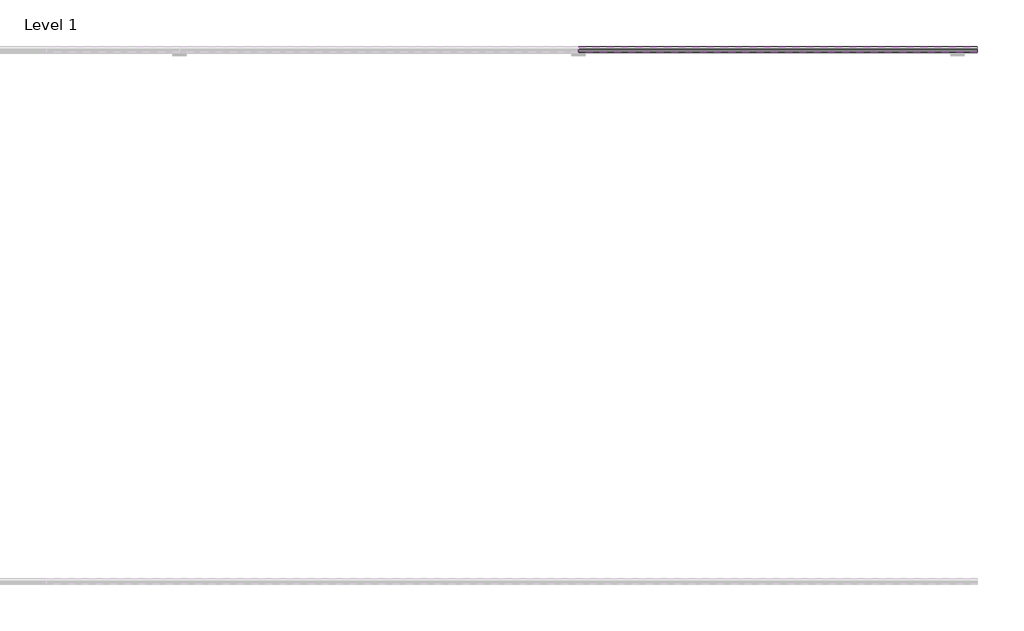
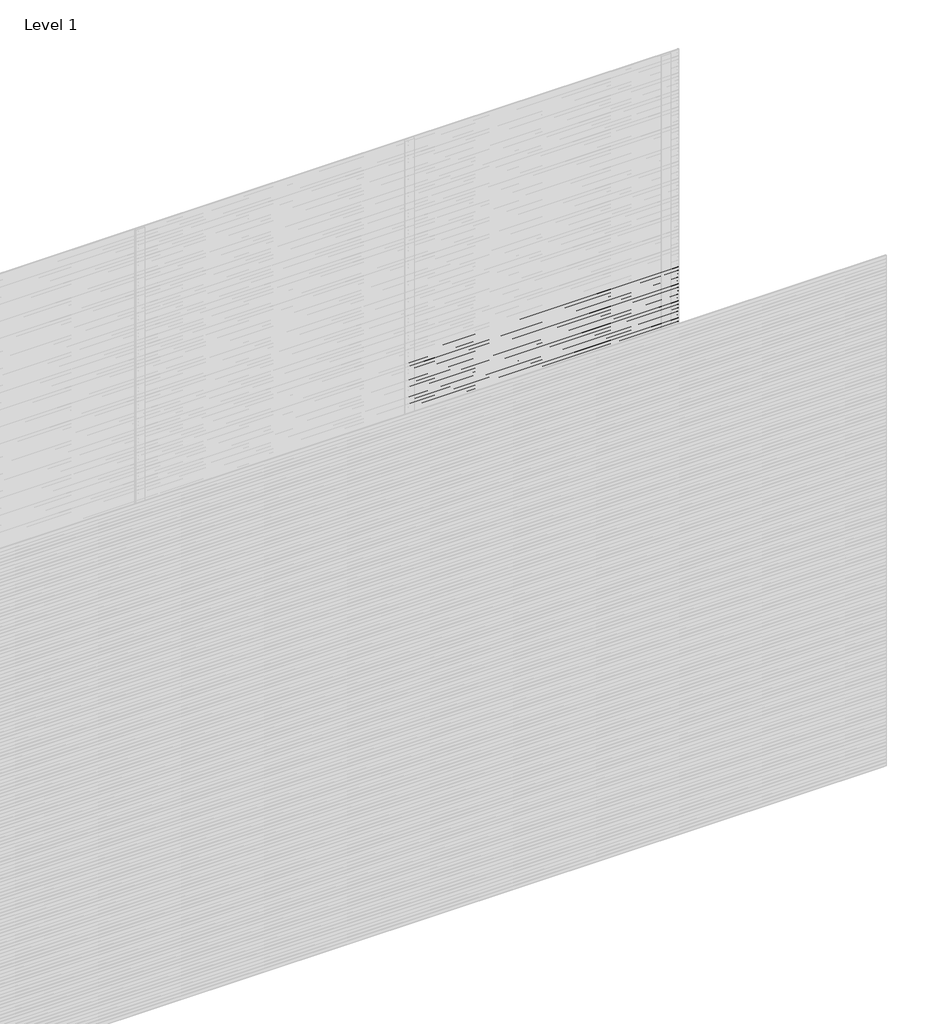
# One storey, part 31 of 31: 87 proxies.
"""IFC4 building model written with IfcOpenShell, lengths in millimetres."""

import ifcopenshell
import ifcopenshell.guid

model = None  # the IFC model being written
_history = None  # IfcOwnerHistory: only IFC2X3 demands one
_inside = {}  # id of a spatial element -> (the spatial element, [elements in it])
_under = {}  # id of a project, library or spatial element -> (it, [spatial elements below it])
_declared = {}  # id of a project -> (the project, [libraries it declares])
_typed = {}  # id of a type object -> (the type object, [elements of that type])
_made_of = {}  # id of a material, layer set ... -> (it, [elements and type objects made of it])


def new_model(schema):
    """Start an empty IFC model of exactly this schema.

    Asked for "IFC4X3", IfcOpenShell would pick the latest addendum, in which some entities
    have other attributes; the version numbers below select the first issue.
    IFC2X3 requires an IfcOwnerHistory on every rooted entity: one is made here for all.
    """
    global model, _history
    if schema == "IFC4X3":
        model = ifcopenshell.file(schema_version=(4, 3, 0, 0))
    else:
        model = ifcopenshell.file(schema=schema)
    _inside.clear()
    _under.clear()
    _declared.clear()
    _typed.clear()
    _made_of.clear()
    _history = None
    if model.schema == "IFC2X3":
        org = make("IfcOrganization", Name="unknown")
        user = make(
            "IfcPersonAndOrganization",
            ThePerson=make("IfcPerson", FamilyName="unknown"),
            TheOrganization=org,
        )
        app = make(
            "IfcApplication",
            ApplicationDeveloper=org,
            Version="unknown",
            ApplicationFullName="unknown",
            ApplicationIdentifier="unknown",
        )
        _history = make(
            "IfcOwnerHistory",
            OwningUser=user,
            OwningApplication=app,
            ChangeAction="ADDED",
            CreationDate=0,
        )
    return model


def make(cls, **values):
    """One entity of the class cls with the attributes given. An attribute that is None is left unset."""
    return model.create_entity(
        cls, **{name: value for name, value in values.items() if value is not None}
    )


def rooted(cls, **values):
    """An entity with a GlobalId (a new one), such as an element, a storey or a relation."""
    return make(cls, GlobalId=ifcopenshell.guid.new(), OwnerHistory=_history, **values)


def si_unit(unit_type, name, prefix=None):
    """IfcSIUnit, for example si_unit("LENGTHUNIT", "METRE", prefix="MILLI")."""
    return make("IfcSIUnit", UnitType=unit_type, Prefix=prefix, Name=name)


def assignment(units):
    """IfcUnitAssignment: the units of a project."""
    return None if units is None else make("IfcUnitAssignment", Units=units)


def point(xyz):
    """IfcCartesianPoint."""
    return None if xyz is None else make("IfcCartesianPoint", Coordinates=xyz)


def direction(xyz):
    """IfcDirection."""
    return None if xyz is None else make("IfcDirection", DirectionRatios=xyz)


def frame(location, z_axis=None, x_axis=None):
    """IfcAxis2Placement3D, a coordinate frame: its origin and axes. An axis left out is left unset."""
    return make(
        "IfcAxis2Placement3D",
        Location=point(location),
        Axis=direction(z_axis),
        RefDirection=direction(x_axis),
    )


def origin():
    """The frame at (0, 0, 0) with its axes left unset."""
    return frame((0.0, 0.0, 0.0))


def place(relative_to, where):
    """IfcLocalPlacement: puts the frame where relative to a parent placement (None: the world)."""
    return make(
        "IfcLocalPlacement", PlacementRelTo=relative_to, RelativePlacement=where
    )


def context(
    kind, dimensions, precision=None, world=None, true_north=None, identifier=None
):
    """IfcGeometricRepresentationContext, for example the 3D "Model" context."""
    return make(
        "IfcGeometricRepresentationContext",
        ContextIdentifier=identifier,
        ContextType=kind,
        CoordinateSpaceDimension=dimensions,
        Precision=precision,
        WorldCoordinateSystem=world,
        TrueNorth=true_north,
    )


def project(units=None, contexts=None):
    """IfcProject with its units and contexts."""
    return rooted(
        "IfcProject",
        Name="project",
        RepresentationContexts=contexts,
        UnitsInContext=assignment(units),
    )


def spatial(cls, under=None, at=None, **own):
    """A site, building, storey or space (cls), placed at a placement, below another one or the project."""
    s = rooted(cls, ObjectPlacement=at, **own)
    if under is not None:
        _under.setdefault(under.id(), (under, []))[1].append(s)
    return s


def polyline(points):
    """IfcPolyline through the points."""
    return make("IfcPolyline", Points=[point(p) for p in points])


def outline(outer, holes=None, kind="AREA"):
    """IfcArbitraryClosedProfileDef: a profile drawn as a closed curve; with holes, ...WithVoids."""
    if holes is None:
        return make("IfcArbitraryClosedProfileDef", ProfileType=kind, OuterCurve=outer)
    return make(
        "IfcArbitraryProfileDefWithVoids",
        ProfileType=kind,
        OuterCurve=outer,
        InnerCurves=holes,
    )


def extrude(swept, where, along, depth):
    """IfcExtrudedAreaSolid: the profile swept, set in the frame where, extruded along a direction by depth."""
    return make(
        "IfcExtrudedAreaSolid",
        SweptArea=swept,
        Position=where,
        ExtrudedDirection=direction(along),
        Depth=depth,
    )


def shape(context_of_items, identifier, shape_type, items):
    """IfcShapeRepresentation: the items that make up one representation, for example the "Body"."""
    return make(
        "IfcShapeRepresentation",
        ContextOfItems=context_of_items,
        RepresentationIdentifier=identifier,
        RepresentationType=shape_type,
        Items=items,
    )


def made_of(thing, what):
    """Note that an element or type object is made of a material, layer set ...; save() writes the relation."""
    if what is not None:
        _made_of.setdefault(what.id(), (what, []))[1].append(thing)
    return thing


def element(
    cls,
    number,
    at=None,
    inside=None,
    cuts=None,
    type_object=None,
    material=None,
    context=None,
    identifier="Body",
    shape_type=None,
    held_by="IfcProductDefinitionShape",
    body=None,
    shapes=None,
    **own,
):
    """One element of the class cls, such as IfcWall. Its Tag is "e" and its number.

    at: its placement. inside: the storey or other place that contains it. cuts: it is an
    opening in that element (IfcRelVoidsElement). A single representation is given by context,
    identifier, shape_type and body (its items); several are given by shapes. held_by: the class
    of the entity that holds the representations. save() writes the other relations.
    """
    e = rooted(cls, Tag="e%d" % number, ObjectPlacement=at, **own)
    if body is not None:
        shapes = [shape(context, identifier, shape_type, body)]
    if shapes is not None:
        e.Representation = make(held_by, Representations=shapes)
    if inside is not None:
        _inside.setdefault(inside.id(), (inside, []))[1].append(e)
    if cuts is not None:
        rooted(
            "IfcRelVoidsElement", RelatingBuildingElement=cuts, RelatedOpeningElement=e
        )
    if type_object is not None:
        _typed.setdefault(type_object.id(), (type_object, []))[1].append(e)
    return made_of(e, material)


def aggregate(whole, parts):
    """IfcRelAggregates: a whole, such as a stair, and the parts it consists of."""
    return rooted("IfcRelAggregates", RelatingObject=whole, RelatedObjects=parts)


def save(model, path):
    """Write the relations noted so far, then the file.

    IfcRelAggregates (storeys below a building ...), IfcRelContainedInSpatialStructure (elements
    in a storey), IfcRelDefinesByType, IfcRelAssociatesMaterial and IfcRelDeclares: one each for
    every whole, place, type object, material and project.
    """
    for whole, parts in _under.values():
        aggregate(whole, parts)
    for where, things in _inside.values():
        rooted(
            "IfcRelContainedInSpatialStructure",
            RelatedElements=things,
            RelatingStructure=where,
        )
    for kind, things in _typed.values():
        rooted("IfcRelDefinesByType", RelatedObjects=things, RelatingType=kind)
    for what, things in _made_of.values():
        rooted("IfcRelAssociatesMaterial", RelatedObjects=things, RelatingMaterial=what)
    for by, libraries in _declared.values():
        rooted("IfcRelDeclares", RelatingContext=by, RelatedDefinitions=libraries)
    model.write(path)


model = new_model("IFC4")

# Units and contexts
model_context = context("Model", 3, world=origin())
ifc_project = project(units=[si_unit("LENGTHUNIT", "METRE", prefix="MILLI")], contexts=[model_context])

# Site, building, storey
site = spatial("IfcSite", under=ifc_project)
building = spatial("IfcBuilding", under=site)
storey = spatial("IfcBuildingStorey", under=building, Name="Level 1", Elevation=0.0)

# Proxies
placement = place(None, origin())
element("IfcBuildingElementProxy", 1, Name="Wall Sweeps", at=placement, inside=storey, context=model_context, shape_type="SweptSolid", body=[
    extrude(outline(polyline([(5.0, 1740.0), (5.0, 1728.942893), (24.0, 1713.0), (24.0, 1700.0), (3.0, 1717.6210923), (3.0, 1740.0), (5.0, 1740.0)])), frame((4500.0, 0.0, 0.0), z_axis=(1.0, 0.0, 0.0), x_axis=(0.0, 1.0, 0.0)), (0.0, 0.0, 1.0), 1500.0),
])
element("IfcBuildingElementProxy", 2, Name="Wall Sweeps", at=placement, inside=storey, context=model_context, shape_type="SweptSolid", body=[
    extrude(outline(polyline([(5.0, 1720.0), (5.0, 1708.942893), (24.0, 1693.0), (24.0, 1680.0), (3.0, 1697.6210923), (3.0, 1720.0), (5.0, 1720.0)])), frame((4500.0, 0.0, 0.0), z_axis=(1.0, 0.0, 0.0), x_axis=(0.0, 1.0, 0.0)), (0.0, 0.0, 1.0), 1500.0),
])
element("IfcBuildingElementProxy", 3, Name="Wall Sweeps", at=placement, inside=storey, context=model_context, shape_type="SweptSolid", body=[
    extrude(outline(polyline([(5.0, 1700.0), (5.0, 1688.942893), (24.0, 1673.0), (24.0, 1660.0), (3.0, 1677.6210923), (3.0, 1700.0), (5.0, 1700.0)])), frame((4500.0, 0.0, 0.0), z_axis=(1.0, 0.0, 0.0), x_axis=(0.0, 1.0, 0.0)), (0.0, 0.0, 1.0), 1500.0),
])
element("IfcBuildingElementProxy", 4, Name="Wall Sweeps", at=placement, inside=storey, context=model_context, shape_type="SweptSolid", body=[
    extrude(outline(polyline([(5.0, 1680.0), (5.0, 1668.942893), (24.0, 1653.0), (24.0, 1640.0), (3.0, 1657.6210923), (3.0, 1680.0), (5.0, 1680.0)])), frame((4500.0, 0.0, 0.0), z_axis=(1.0, 0.0, 0.0), x_axis=(0.0, 1.0, 0.0)), (0.0, 0.0, 1.0), 1500.0),
])
element("IfcBuildingElementProxy", 5, Name="Wall Sweeps", at=placement, inside=storey, context=model_context, shape_type="SweptSolid", body=[
    extrude(outline(polyline([(5.0, 1660.0), (5.0, 1648.942893), (24.0, 1633.0), (24.0, 1620.0), (3.0, 1637.6210923), (3.0, 1660.0), (5.0, 1660.0)])), frame((4500.0, 0.0, 0.0), z_axis=(1.0, 0.0, 0.0), x_axis=(0.0, 1.0, 0.0)), (0.0, 0.0, 1.0), 1500.0),
])
element("IfcBuildingElementProxy", 6, Name="Wall Sweeps", at=placement, inside=storey, context=model_context, shape_type="SweptSolid", body=[
    extrude(outline(polyline([(5.0, 1640.0), (5.0, 1628.942893), (24.0, 1613.0), (24.0, 1600.0), (3.0, 1617.6210923), (3.0, 1640.0), (5.0, 1640.0)])), frame((4500.0, 0.0, 0.0), z_axis=(1.0, 0.0, 0.0), x_axis=(0.0, 1.0, 0.0)), (0.0, 0.0, 1.0), 1500.0),
])
element("IfcBuildingElementProxy", 7, Name="Wall Sweeps", at=placement, inside=storey, context=model_context, shape_type="SweptSolid", body=[
    extrude(outline(polyline([(5.0, 1620.0), (5.0, 1608.942893), (24.0, 1593.0), (24.0, 1580.0), (3.0, 1597.6210923), (3.0, 1620.0), (5.0, 1620.0)])), frame((4500.0, 0.0, 0.0), z_axis=(1.0, 0.0, 0.0), x_axis=(0.0, 1.0, 0.0)), (0.0, 0.0, 1.0), 1500.0),
])
element("IfcBuildingElementProxy", 8, Name="Wall Sweeps", at=placement, inside=storey, context=model_context, shape_type="SweptSolid", body=[
    extrude(outline(polyline([(5.0, 1600.0), (5.0, 1588.942893), (24.0, 1573.0), (24.0, 1560.0), (3.0, 1577.6210923), (3.0, 1600.0), (5.0, 1600.0)])), frame((4500.0, 0.0, 0.0), z_axis=(1.0, 0.0, 0.0), x_axis=(0.0, 1.0, 0.0)), (0.0, 0.0, 1.0), 1500.0),
])
element("IfcBuildingElementProxy", 9, Name="Wall Sweeps", at=placement, inside=storey, context=model_context, shape_type="SweptSolid", body=[
    extrude(outline(polyline([(5.0, 1580.0), (5.0, 1568.942893), (24.0, 1553.0), (24.0, 1540.0), (3.0, 1557.6210923), (3.0, 1580.0), (5.0, 1580.0)])), frame((4500.0, 0.0, 0.0), z_axis=(1.0, 0.0, 0.0), x_axis=(0.0, 1.0, 0.0)), (0.0, 0.0, 1.0), 1500.0),
])
element("IfcBuildingElementProxy", 10, Name="Wall Sweeps", at=placement, inside=storey, context=model_context, shape_type="SweptSolid", body=[
    extrude(outline(polyline([(5.0, 1560.0), (5.0, 1548.942893), (24.0, 1533.0), (24.0, 1520.0), (3.0, 1537.6210923), (3.0, 1560.0), (5.0, 1560.0)])), frame((4500.0, 0.0, 0.0), z_axis=(1.0, 0.0, 0.0), x_axis=(0.0, 1.0, 0.0)), (0.0, 0.0, 1.0), 1500.0),
])
element("IfcBuildingElementProxy", 11, Name="Wall Sweeps", at=placement, inside=storey, context=model_context, shape_type="SweptSolid", body=[
    extrude(outline(polyline([(5.0, 1540.0), (5.0, 1528.942893), (24.0, 1513.0), (24.0, 1500.0), (3.0, 1517.6210923), (3.0, 1540.0), (5.0, 1540.0)])), frame((4500.0, 0.0, 0.0), z_axis=(1.0, 0.0, 0.0), x_axis=(0.0, 1.0, 0.0)), (0.0, 0.0, 1.0), 1500.0),
])
element("IfcBuildingElementProxy", 12, Name="Wall Sweeps", at=placement, inside=storey, context=model_context, shape_type="SweptSolid", body=[
    extrude(outline(polyline([(5.0, 1520.0), (5.0, 1508.942893), (24.0, 1493.0), (24.0, 1480.0), (3.0, 1497.6210923), (3.0, 1520.0), (5.0, 1520.0)])), frame((4500.0, 0.0, 0.0), z_axis=(1.0, 0.0, 0.0), x_axis=(0.0, 1.0, 0.0)), (0.0, 0.0, 1.0), 1500.0),
])
element("IfcBuildingElementProxy", 13, Name="Wall Sweeps", at=placement, inside=storey, context=model_context, shape_type="SweptSolid", body=[
    extrude(outline(polyline([(5.0, 1500.0), (5.0, 1488.942893), (24.0, 1473.0), (24.0, 1460.0), (3.0, 1477.6210923), (3.0, 1500.0), (5.0, 1500.0)])), frame((4500.0, 0.0, 0.0), z_axis=(1.0, 0.0, 0.0), x_axis=(0.0, 1.0, 0.0)), (0.0, 0.0, 1.0), 1500.0),
])
element("IfcBuildingElementProxy", 14, Name="Wall Sweeps", at=placement, inside=storey, context=model_context, shape_type="SweptSolid", body=[
    extrude(outline(polyline([(5.0, 1480.0), (5.0, 1468.942893), (24.0, 1453.0), (24.0, 1440.0), (3.0, 1457.6210923), (3.0, 1480.0), (5.0, 1480.0)])), frame((4500.0, 0.0, 0.0), z_axis=(1.0, 0.0, 0.0), x_axis=(0.0, 1.0, 0.0)), (0.0, 0.0, 1.0), 1500.0),
])
element("IfcBuildingElementProxy", 15, Name="Wall Sweeps", at=placement, inside=storey, context=model_context, shape_type="SweptSolid", body=[
    extrude(outline(polyline([(5.0, 1460.0), (5.0, 1448.942893), (24.0, 1433.0), (24.0, 1420.0), (3.0, 1437.6210923), (3.0, 1460.0), (5.0, 1460.0)])), frame((4500.0, 0.0, 0.0), z_axis=(1.0, 0.0, 0.0), x_axis=(0.0, 1.0, 0.0)), (0.0, 0.0, 1.0), 1500.0),
])
element("IfcBuildingElementProxy", 16, Name="Wall Sweeps", at=placement, inside=storey, context=model_context, shape_type="SweptSolid", body=[
    extrude(outline(polyline([(5.0, 1440.0), (5.0, 1428.942893), (24.0, 1413.0), (24.0, 1400.0), (3.0, 1417.6210923), (3.0, 1440.0), (5.0, 1440.0)])), frame((4500.0, 0.0, 0.0), z_axis=(1.0, 0.0, 0.0), x_axis=(0.0, 1.0, 0.0)), (0.0, 0.0, 1.0), 1500.0),
])
element("IfcBuildingElementProxy", 17, Name="Wall Sweeps", at=placement, inside=storey, context=model_context, shape_type="SweptSolid", body=[
    extrude(outline(polyline([(5.0, 1420.0), (5.0, 1408.942893), (24.0, 1393.0), (24.0, 1380.0), (3.0, 1397.6210923), (3.0, 1420.0), (5.0, 1420.0)])), frame((4500.0, 0.0, 0.0), z_axis=(1.0, 0.0, 0.0), x_axis=(0.0, 1.0, 0.0)), (0.0, 0.0, 1.0), 1500.0),
])
element("IfcBuildingElementProxy", 18, Name="Wall Sweeps", at=placement, inside=storey, context=model_context, shape_type="SweptSolid", body=[
    extrude(outline(polyline([(5.0, 1400.0), (5.0, 1388.942893), (24.0, 1373.0), (24.0, 1360.0), (3.0, 1377.6210923), (3.0, 1400.0), (5.0, 1400.0)])), frame((4500.0, 0.0, 0.0), z_axis=(1.0, 0.0, 0.0), x_axis=(0.0, 1.0, 0.0)), (0.0, 0.0, 1.0), 1500.0),
])
element("IfcBuildingElementProxy", 19, Name="Wall Sweeps", at=placement, inside=storey, context=model_context, shape_type="SweptSolid", body=[
    extrude(outline(polyline([(5.0, 1380.0), (5.0, 1368.942893), (24.0, 1353.0), (24.0, 1340.0), (3.0, 1357.6210923), (3.0, 1380.0), (5.0, 1380.0)])), frame((4500.0, 0.0, 0.0), z_axis=(1.0, 0.0, 0.0), x_axis=(0.0, 1.0, 0.0)), (0.0, 0.0, 1.0), 1500.0),
])
element("IfcBuildingElementProxy", 20, Name="Wall Sweeps", at=placement, inside=storey, context=model_context, shape_type="SweptSolid", body=[
    extrude(outline(polyline([(5.0, 1360.0), (5.0, 1348.942893), (24.0, 1333.0), (24.0, 1320.0), (3.0, 1337.6210923), (3.0, 1360.0), (5.0, 1360.0)])), frame((4500.0, 0.0, 0.0), z_axis=(1.0, 0.0, 0.0), x_axis=(0.0, 1.0, 0.0)), (0.0, 0.0, 1.0), 1500.0),
])
element("IfcBuildingElementProxy", 21, Name="Wall Sweeps", at=placement, inside=storey, context=model_context, shape_type="SweptSolid", body=[
    extrude(outline(polyline([(5.0, 1340.0), (5.0, 1328.942893), (24.0, 1313.0), (24.0, 1300.0), (3.0, 1317.6210923), (3.0, 1340.0), (5.0, 1340.0)])), frame((4500.0, 0.0, 0.0), z_axis=(1.0, 0.0, 0.0), x_axis=(0.0, 1.0, 0.0)), (0.0, 0.0, 1.0), 1500.0),
])
element("IfcBuildingElementProxy", 22, Name="Wall Sweeps", at=placement, inside=storey, context=model_context, shape_type="SweptSolid", body=[
    extrude(outline(polyline([(5.0, 1320.0), (5.0, 1308.942893), (24.0, 1293.0), (24.0, 1280.0), (3.0, 1297.6210923), (3.0, 1320.0), (5.0, 1320.0)])), frame((4500.0, 0.0, 0.0), z_axis=(1.0, 0.0, 0.0), x_axis=(0.0, 1.0, 0.0)), (0.0, 0.0, 1.0), 1500.0),
])
element("IfcBuildingElementProxy", 23, Name="Wall Sweeps", at=placement, inside=storey, context=model_context, shape_type="SweptSolid", body=[
    extrude(outline(polyline([(5.0, 1300.0), (5.0, 1288.942893), (24.0, 1273.0), (24.0, 1260.0), (3.0, 1277.6210923), (3.0, 1300.0), (5.0, 1300.0)])), frame((4500.0, 0.0, 0.0), z_axis=(1.0, 0.0, 0.0), x_axis=(0.0, 1.0, 0.0)), (0.0, 0.0, 1.0), 1500.0),
])
element("IfcBuildingElementProxy", 24, Name="Wall Sweeps", at=placement, inside=storey, context=model_context, shape_type="SweptSolid", body=[
    extrude(outline(polyline([(5.0, 1280.0), (5.0, 1268.942893), (24.0, 1253.0), (24.0, 1240.0), (3.0, 1257.6210923), (3.0, 1280.0), (5.0, 1280.0)])), frame((4500.0, 0.0, 0.0), z_axis=(1.0, 0.0, 0.0), x_axis=(0.0, 1.0, 0.0)), (0.0, 0.0, 1.0), 1500.0),
])
element("IfcBuildingElementProxy", 25, Name="Wall Sweeps", at=placement, inside=storey, context=model_context, shape_type="SweptSolid", body=[
    extrude(outline(polyline([(5.0, 1260.0), (5.0, 1248.942893), (24.0, 1233.0), (24.0, 1220.0), (3.0, 1237.6210923), (3.0, 1260.0), (5.0, 1260.0)])), frame((4500.0, 0.0, 0.0), z_axis=(1.0, 0.0, 0.0), x_axis=(0.0, 1.0, 0.0)), (0.0, 0.0, 1.0), 1500.0),
])
element("IfcBuildingElementProxy", 26, Name="Wall Sweeps", at=placement, inside=storey, context=model_context, shape_type="SweptSolid", body=[
    extrude(outline(polyline([(5.0, 1240.0), (5.0, 1228.942893), (24.0, 1213.0), (24.0, 1200.0), (3.0, 1217.6210923), (3.0, 1240.0), (5.0, 1240.0)])), frame((4500.0, 0.0, 0.0), z_axis=(1.0, 0.0, 0.0), x_axis=(0.0, 1.0, 0.0)), (0.0, 0.0, 1.0), 1500.0),
])
element("IfcBuildingElementProxy", 27, Name="Wall Sweeps", at=placement, inside=storey, context=model_context, shape_type="SweptSolid", body=[
    extrude(outline(polyline([(5.0, 1220.0), (5.0, 1208.942893), (24.0, 1193.0), (24.0, 1180.0), (3.0, 1197.6210923), (3.0, 1220.0), (5.0, 1220.0)])), frame((4500.0, 0.0, 0.0), z_axis=(1.0, 0.0, 0.0), x_axis=(0.0, 1.0, 0.0)), (0.0, 0.0, 1.0), 1500.0),
])
element("IfcBuildingElementProxy", 28, Name="Wall Sweeps", at=placement, inside=storey, context=model_context, shape_type="SweptSolid", body=[
    extrude(outline(polyline([(5.0, 1200.0), (5.0, 1188.942893), (24.0, 1173.0), (24.0, 1160.0), (3.0, 1177.6210923), (3.0, 1200.0), (5.0, 1200.0)])), frame((4500.0, 0.0, 0.0), z_axis=(1.0, 0.0, 0.0), x_axis=(0.0, 1.0, 0.0)), (0.0, 0.0, 1.0), 1500.0),
])
element("IfcBuildingElementProxy", 29, Name="Wall Sweeps", at=placement, inside=storey, context=model_context, shape_type="SweptSolid", body=[
    extrude(outline(polyline([(5.0, 1180.0), (5.0, 1168.942893), (24.0, 1153.0), (24.0, 1140.0), (3.0, 1157.6210923), (3.0, 1180.0), (5.0, 1180.0)])), frame((4500.0, 0.0, 0.0), z_axis=(1.0, 0.0, 0.0), x_axis=(0.0, 1.0, 0.0)), (0.0, 0.0, 1.0), 1500.0),
])
element("IfcBuildingElementProxy", 30, Name="Wall Sweeps", at=placement, inside=storey, context=model_context, shape_type="SweptSolid", body=[
    extrude(outline(polyline([(5.0, 1160.0), (5.0, 1148.942893), (24.0, 1133.0), (24.0, 1120.0), (3.0, 1137.6210923), (3.0, 1160.0), (5.0, 1160.0)])), frame((4500.0, 0.0, 0.0), z_axis=(1.0, 0.0, 0.0), x_axis=(0.0, 1.0, 0.0)), (0.0, 0.0, 1.0), 1500.0),
])
element("IfcBuildingElementProxy", 31, Name="Wall Sweeps", at=placement, inside=storey, context=model_context, shape_type="SweptSolid", body=[
    extrude(outline(polyline([(5.0, 1140.0), (5.0, 1128.942893), (24.0, 1113.0), (24.0, 1100.0), (3.0, 1117.6210923), (3.0, 1140.0), (5.0, 1140.0)])), frame((4500.0, 0.0, 0.0), z_axis=(1.0, 0.0, 0.0), x_axis=(0.0, 1.0, 0.0)), (0.0, 0.0, 1.0), 1500.0),
])
element("IfcBuildingElementProxy", 32, Name="Wall Sweeps", at=placement, inside=storey, context=model_context, shape_type="SweptSolid", body=[
    extrude(outline(polyline([(5.0, 1120.0), (5.0, 1108.942893), (24.0, 1093.0), (24.0, 1080.0), (3.0, 1097.6210923), (3.0, 1120.0), (5.0, 1120.0)])), frame((4500.0, 0.0, 0.0), z_axis=(1.0, 0.0, 0.0), x_axis=(0.0, 1.0, 0.0)), (0.0, 0.0, 1.0), 1500.0),
])
element("IfcBuildingElementProxy", 33, Name="Wall Sweeps", at=placement, inside=storey, context=model_context, shape_type="SweptSolid", body=[
    extrude(outline(polyline([(5.0, 1100.0), (5.0, 1088.942893), (24.0, 1073.0), (24.0, 1060.0), (3.0, 1077.6210923), (3.0, 1100.0), (5.0, 1100.0)])), frame((4500.0, 0.0, 0.0), z_axis=(1.0, 0.0, 0.0), x_axis=(0.0, 1.0, 0.0)), (0.0, 0.0, 1.0), 1500.0),
])
element("IfcBuildingElementProxy", 34, Name="Wall Sweeps", at=placement, inside=storey, context=model_context, shape_type="SweptSolid", body=[
    extrude(outline(polyline([(5.0, 1080.0), (5.0, 1068.942893), (24.0, 1053.0), (24.0, 1040.0), (3.0, 1057.6210923), (3.0, 1080.0), (5.0, 1080.0)])), frame((4500.0, 0.0, 0.0), z_axis=(1.0, 0.0, 0.0), x_axis=(0.0, 1.0, 0.0)), (0.0, 0.0, 1.0), 1500.0),
])
element("IfcBuildingElementProxy", 35, Name="Wall Sweeps", at=placement, inside=storey, context=model_context, shape_type="SweptSolid", body=[
    extrude(outline(polyline([(5.0, 1060.0), (5.0, 1048.942893), (24.0, 1033.0), (24.0, 1020.0), (3.0, 1037.6210923), (3.0, 1060.0), (5.0, 1060.0)])), frame((4500.0, 0.0, 0.0), z_axis=(1.0, 0.0, 0.0), x_axis=(0.0, 1.0, 0.0)), (0.0, 0.0, 1.0), 1500.0),
])
element("IfcBuildingElementProxy", 36, Name="Wall Sweeps", at=placement, inside=storey, context=model_context, shape_type="SweptSolid", body=[
    extrude(outline(polyline([(5.0, 1040.0), (5.0, 1028.942893), (24.0, 1013.0), (24.0, 1000.0), (3.0, 1017.6210923), (3.0, 1040.0), (5.0, 1040.0)])), frame((4500.0, 0.0, 0.0), z_axis=(1.0, 0.0, 0.0), x_axis=(0.0, 1.0, 0.0)), (0.0, 0.0, 1.0), 1500.0),
])
element("IfcBuildingElementProxy", 37, Name="Wall Sweeps", at=placement, inside=storey, context=model_context, shape_type="SweptSolid", body=[
    extrude(outline(polyline([(5.0, 1020.0), (5.0, 1008.942893), (24.0, 993.0), (24.0, 980.0), (3.0, 997.6210923), (3.0, 1020.0), (5.0, 1020.0)])), frame((4500.0, 0.0, 0.0), z_axis=(1.0, 0.0, 0.0), x_axis=(0.0, 1.0, 0.0)), (0.0, 0.0, 1.0), 1500.0),
])
element("IfcBuildingElementProxy", 38, Name="Wall Sweeps", at=placement, inside=storey, context=model_context, shape_type="SweptSolid", body=[
    extrude(outline(polyline([(5.0, 1000.0), (5.0, 988.942893), (24.0, 973.0), (24.0, 960.0), (3.0, 977.6210923), (3.0, 1000.0), (5.0, 1000.0)])), frame((4500.0, 0.0, 0.0), z_axis=(1.0, 0.0, 0.0), x_axis=(0.0, 1.0, 0.0)), (0.0, 0.0, 1.0), 1500.0),
])
element("IfcBuildingElementProxy", 39, Name="Wall Sweeps", at=placement, inside=storey, context=model_context, shape_type="SweptSolid", body=[
    extrude(outline(polyline([(5.0, 980.0), (5.0, 968.942893), (24.0, 953.0), (24.0, 940.0), (3.0, 957.6210923), (3.0, 980.0), (5.0, 980.0)])), frame((4500.0, 0.0, 0.0), z_axis=(1.0, 0.0, 0.0), x_axis=(0.0, 1.0, 0.0)), (0.0, 0.0, 1.0), 1500.0),
])
element("IfcBuildingElementProxy", 40, Name="Wall Sweeps", at=placement, inside=storey, context=model_context, shape_type="SweptSolid", body=[
    extrude(outline(polyline([(5.0, 960.0), (5.0, 948.942893), (24.0, 933.0), (24.0, 920.0), (3.0, 937.6210923), (3.0, 960.0), (5.0, 960.0)])), frame((4500.0, 0.0, 0.0), z_axis=(1.0, 0.0, 0.0), x_axis=(0.0, 1.0, 0.0)), (0.0, 0.0, 1.0), 1500.0),
])
element("IfcBuildingElementProxy", 41, Name="Wall Sweeps", at=placement, inside=storey, context=model_context, shape_type="SweptSolid", body=[
    extrude(outline(polyline([(5.0, 940.0), (5.0, 928.942893), (24.0, 913.0), (24.0, 900.0), (3.0, 917.6210923), (3.0, 940.0), (5.0, 940.0)])), frame((4500.0, 0.0, 0.0), z_axis=(1.0, 0.0, 0.0), x_axis=(0.0, 1.0, 0.0)), (0.0, 0.0, 1.0), 1500.0),
])
element("IfcBuildingElementProxy", 42, Name="Wall Sweeps", at=placement, inside=storey, context=model_context, shape_type="SweptSolid", body=[
    extrude(outline(polyline([(5.0, 920.0), (5.0, 908.942893), (24.0, 893.0), (24.0, 880.0), (3.0, 897.6210923), (3.0, 920.0), (5.0, 920.0)])), frame((4500.0, 0.0, 0.0), z_axis=(1.0, 0.0, 0.0), x_axis=(0.0, 1.0, 0.0)), (0.0, 0.0, 1.0), 1500.0),
])
element("IfcBuildingElementProxy", 43, Name="Wall Sweeps", at=placement, inside=storey, context=model_context, shape_type="SweptSolid", body=[
    extrude(outline(polyline([(5.0, 900.0), (5.0, 888.942893), (24.0, 873.0), (24.0, 860.0), (3.0, 877.6210923), (3.0, 900.0), (5.0, 900.0)])), frame((4500.0, 0.0, 0.0), z_axis=(1.0, 0.0, 0.0), x_axis=(0.0, 1.0, 0.0)), (0.0, 0.0, 1.0), 1500.0),
])
element("IfcBuildingElementProxy", 44, Name="Wall Sweeps", at=placement, inside=storey, context=model_context, shape_type="SweptSolid", body=[
    extrude(outline(polyline([(5.0, 880.0), (5.0, 868.942893), (24.0, 853.0), (24.0, 840.0), (3.0, 857.6210923), (3.0, 880.0), (5.0, 880.0)])), frame((4500.0, 0.0, 0.0), z_axis=(1.0, 0.0, 0.0), x_axis=(0.0, 1.0, 0.0)), (0.0, 0.0, 1.0), 1500.0),
])
element("IfcBuildingElementProxy", 45, Name="Wall Sweeps", at=placement, inside=storey, context=model_context, shape_type="SweptSolid", body=[
    extrude(outline(polyline([(5.0, 860.0), (5.0, 848.942893), (24.0, 833.0), (24.0, 820.0), (3.0, 837.6210923), (3.0, 860.0), (5.0, 860.0)])), frame((4500.0, 0.0, 0.0), z_axis=(1.0, 0.0, 0.0), x_axis=(0.0, 1.0, 0.0)), (0.0, 0.0, 1.0), 1500.0),
])
element("IfcBuildingElementProxy", 46, Name="Wall Sweeps", at=placement, inside=storey, context=model_context, shape_type="SweptSolid", body=[
    extrude(outline(polyline([(5.0, 840.0), (5.0, 828.942893), (24.0, 813.0), (24.0, 800.0), (3.0, 817.6210923), (3.0, 840.0), (5.0, 840.0)])), frame((4500.0, 0.0, 0.0), z_axis=(1.0, 0.0, 0.0), x_axis=(0.0, 1.0, 0.0)), (0.0, 0.0, 1.0), 1500.0),
])
element("IfcBuildingElementProxy", 47, Name="Wall Sweeps", at=placement, inside=storey, context=model_context, shape_type="SweptSolid", body=[
    extrude(outline(polyline([(5.0, 820.0), (5.0, 808.942893), (24.0, 793.0), (24.0, 780.0), (3.0, 797.6210923), (3.0, 820.0), (5.0, 820.0)])), frame((4500.0, 0.0, 0.0), z_axis=(1.0, 0.0, 0.0), x_axis=(0.0, 1.0, 0.0)), (0.0, 0.0, 1.0), 1500.0),
])
element("IfcBuildingElementProxy", 48, Name="Wall Sweeps", at=placement, inside=storey, context=model_context, shape_type="SweptSolid", body=[
    extrude(outline(polyline([(5.0, 800.0), (5.0, 788.942893), (24.0, 773.0), (24.0, 760.0), (3.0, 777.6210923), (3.0, 800.0), (5.0, 800.0)])), frame((4500.0, 0.0, 0.0), z_axis=(1.0, 0.0, 0.0), x_axis=(0.0, 1.0, 0.0)), (0.0, 0.0, 1.0), 1500.0),
])
element("IfcBuildingElementProxy", 49, Name="Wall Sweeps", at=placement, inside=storey, context=model_context, shape_type="SweptSolid", body=[
    extrude(outline(polyline([(5.0, 780.0), (5.0, 768.942893), (24.0, 753.0), (24.0, 740.0), (3.0, 757.6210923), (3.0, 780.0), (5.0, 780.0)])), frame((4500.0, 0.0, 0.0), z_axis=(1.0, 0.0, 0.0), x_axis=(0.0, 1.0, 0.0)), (0.0, 0.0, 1.0), 1500.0),
])
element("IfcBuildingElementProxy", 50, Name="Wall Sweeps", at=placement, inside=storey, context=model_context, shape_type="SweptSolid", body=[
    extrude(outline(polyline([(5.0, 760.0), (5.0, 748.942893), (24.0, 733.0), (24.0, 720.0), (3.0, 737.6210923), (3.0, 760.0), (5.0, 760.0)])), frame((4500.0, 0.0, 0.0), z_axis=(1.0, 0.0, 0.0), x_axis=(0.0, 1.0, 0.0)), (0.0, 0.0, 1.0), 1500.0),
])
element("IfcBuildingElementProxy", 51, Name="Wall Sweeps", at=placement, inside=storey, context=model_context, shape_type="SweptSolid", body=[
    extrude(outline(polyline([(5.0, 740.0), (5.0, 728.942893), (24.0, 713.0), (24.0, 700.0), (3.0, 717.6210923), (3.0, 740.0), (5.0, 740.0)])), frame((4500.0, 0.0, 0.0), z_axis=(1.0, 0.0, 0.0), x_axis=(0.0, 1.0, 0.0)), (0.0, 0.0, 1.0), 1500.0),
])
element("IfcBuildingElementProxy", 52, Name="Wall Sweeps", at=placement, inside=storey, context=model_context, shape_type="SweptSolid", body=[
    extrude(outline(polyline([(5.0, 720.0), (5.0, 708.942893), (24.0, 693.0), (24.0, 680.0), (3.0, 697.6210923), (3.0, 720.0), (5.0, 720.0)])), frame((4500.0, 0.0, 0.0), z_axis=(1.0, 0.0, 0.0), x_axis=(0.0, 1.0, 0.0)), (0.0, 0.0, 1.0), 1500.0),
])
element("IfcBuildingElementProxy", 53, Name="Wall Sweeps", at=placement, inside=storey, context=model_context, shape_type="SweptSolid", body=[
    extrude(outline(polyline([(5.0, 700.0), (5.0, 688.942893), (24.0, 673.0), (24.0, 660.0), (3.0, 677.6210923), (3.0, 700.0), (5.0, 700.0)])), frame((4500.0, 0.0, 0.0), z_axis=(1.0, 0.0, 0.0), x_axis=(0.0, 1.0, 0.0)), (0.0, 0.0, 1.0), 1500.0),
])
element("IfcBuildingElementProxy", 54, Name="Wall Sweeps", at=placement, inside=storey, context=model_context, shape_type="SweptSolid", body=[
    extrude(outline(polyline([(5.0, 680.0), (5.0, 668.942893), (24.0, 653.0), (24.0, 640.0), (3.0, 657.6210923), (3.0, 680.0), (5.0, 680.0)])), frame((4500.0, 0.0, 0.0), z_axis=(1.0, 0.0, 0.0), x_axis=(0.0, 1.0, 0.0)), (0.0, 0.0, 1.0), 1500.0),
])
element("IfcBuildingElementProxy", 55, Name="Wall Sweeps", at=placement, inside=storey, context=model_context, shape_type="SweptSolid", body=[
    extrude(outline(polyline([(5.0, 660.0), (5.0, 648.942893), (24.0, 633.0), (24.0, 620.0), (3.0, 637.6210923), (3.0, 660.0), (5.0, 660.0)])), frame((4500.0, 0.0, 0.0), z_axis=(1.0, 0.0, 0.0), x_axis=(0.0, 1.0, 0.0)), (0.0, 0.0, 1.0), 1500.0),
])
element("IfcBuildingElementProxy", 56, Name="Wall Sweeps", at=placement, inside=storey, context=model_context, shape_type="SweptSolid", body=[
    extrude(outline(polyline([(5.0, 640.0), (5.0, 628.942893), (24.0, 613.0), (24.0, 600.0), (3.0, 617.6210923), (3.0, 640.0), (5.0, 640.0)])), frame((4500.0, 0.0, 0.0), z_axis=(1.0, 0.0, 0.0), x_axis=(0.0, 1.0, 0.0)), (0.0, 0.0, 1.0), 1500.0),
])
element("IfcBuildingElementProxy", 57, Name="Wall Sweeps", at=placement, inside=storey, context=model_context, shape_type="SweptSolid", body=[
    extrude(outline(polyline([(5.0, 620.0), (5.0, 608.942893), (24.0, 593.0), (24.0, 580.0), (3.0, 597.6210923), (3.0, 620.0), (5.0, 620.0)])), frame((4500.0, 0.0, 0.0), z_axis=(1.0, 0.0, 0.0), x_axis=(0.0, 1.0, 0.0)), (0.0, 0.0, 1.0), 1500.0),
])
element("IfcBuildingElementProxy", 58, Name="Wall Sweeps", at=placement, inside=storey, context=model_context, shape_type="SweptSolid", body=[
    extrude(outline(polyline([(5.0, 600.0), (5.0, 588.942893), (24.0, 573.0), (24.0, 560.0), (3.0, 577.6210923), (3.0, 600.0), (5.0, 600.0)])), frame((4500.0, 0.0, 0.0), z_axis=(1.0, 0.0, 0.0), x_axis=(0.0, 1.0, 0.0)), (0.0, 0.0, 1.0), 1500.0),
])
element("IfcBuildingElementProxy", 59, Name="Wall Sweeps", at=placement, inside=storey, context=model_context, shape_type="SweptSolid", body=[
    extrude(outline(polyline([(5.0, 580.0), (5.0, 568.942893), (24.0, 553.0), (24.0, 540.0), (3.0, 557.6210923), (3.0, 580.0), (5.0, 580.0)])), frame((4500.0, 0.0, 0.0), z_axis=(1.0, 0.0, 0.0), x_axis=(0.0, 1.0, 0.0)), (0.0, 0.0, 1.0), 1500.0),
])
element("IfcBuildingElementProxy", 60, Name="Wall Sweeps", at=placement, inside=storey, context=model_context, shape_type="SweptSolid", body=[
    extrude(outline(polyline([(5.0, 560.0), (5.0, 548.942893), (24.0, 533.0), (24.0, 520.0), (3.0, 537.6210923), (3.0, 560.0), (5.0, 560.0)])), frame((4500.0, 0.0, 0.0), z_axis=(1.0, 0.0, 0.0), x_axis=(0.0, 1.0, 0.0)), (0.0, 0.0, 1.0), 1500.0),
])
element("IfcBuildingElementProxy", 61, Name="Wall Sweeps", at=placement, inside=storey, context=model_context, shape_type="SweptSolid", body=[
    extrude(outline(polyline([(5.0, 540.0), (5.0, 528.942893), (24.0, 513.0), (24.0, 500.0), (3.0, 517.6210923), (3.0, 540.0), (5.0, 540.0)])), frame((4500.0, 0.0, 0.0), z_axis=(1.0, 0.0, 0.0), x_axis=(0.0, 1.0, 0.0)), (0.0, 0.0, 1.0), 1500.0),
])
element("IfcBuildingElementProxy", 62, Name="Wall Sweeps", at=placement, inside=storey, context=model_context, shape_type="SweptSolid", body=[
    extrude(outline(polyline([(5.0, 520.0), (5.0, 508.942893), (24.0, 493.0), (24.0, 480.0), (3.0, 497.6210923), (3.0, 520.0), (5.0, 520.0)])), frame((4500.0, 0.0, 0.0), z_axis=(1.0, 0.0, 0.0), x_axis=(0.0, 1.0, 0.0)), (0.0, 0.0, 1.0), 1500.0),
])
element("IfcBuildingElementProxy", 63, Name="Wall Sweeps", at=placement, inside=storey, context=model_context, shape_type="SweptSolid", body=[
    extrude(outline(polyline([(5.0, 500.0), (5.0, 488.942893), (24.0, 473.0), (24.0, 460.0), (3.0, 477.6210923), (3.0, 500.0), (5.0, 500.0)])), frame((4500.0, 0.0, 0.0), z_axis=(1.0, 0.0, 0.0), x_axis=(0.0, 1.0, 0.0)), (0.0, 0.0, 1.0), 1500.0),
])
element("IfcBuildingElementProxy", 64, Name="Wall Sweeps", at=placement, inside=storey, context=model_context, shape_type="SweptSolid", body=[
    extrude(outline(polyline([(5.0, 480.0), (5.0, 468.942893), (24.0, 453.0), (24.0, 440.0), (3.0, 457.6210923), (3.0, 480.0), (5.0, 480.0)])), frame((4500.0, 0.0, 0.0), z_axis=(1.0, 0.0, 0.0), x_axis=(0.0, 1.0, 0.0)), (0.0, 0.0, 1.0), 1500.0),
])
element("IfcBuildingElementProxy", 65, Name="Wall Sweeps", at=placement, inside=storey, context=model_context, shape_type="SweptSolid", body=[
    extrude(outline(polyline([(5.0, 460.0), (5.0, 448.942893), (24.0, 433.0), (24.0, 420.0), (3.0, 437.6210923), (3.0, 460.0), (5.0, 460.0)])), frame((4500.0, 0.0, 0.0), z_axis=(1.0, 0.0, 0.0), x_axis=(0.0, 1.0, 0.0)), (0.0, 0.0, 1.0), 1500.0),
])
element("IfcBuildingElementProxy", 66, Name="Wall Sweeps", at=placement, inside=storey, context=model_context, shape_type="SweptSolid", body=[
    extrude(outline(polyline([(5.0, 440.0), (5.0, 428.942893), (24.0, 413.0), (24.0, 400.0), (3.0, 417.6210923), (3.0, 440.0), (5.0, 440.0)])), frame((4500.0, 0.0, 0.0), z_axis=(1.0, 0.0, 0.0), x_axis=(0.0, 1.0, 0.0)), (0.0, 0.0, 1.0), 1500.0),
])
element("IfcBuildingElementProxy", 67, Name="Wall Sweeps", at=placement, inside=storey, context=model_context, shape_type="SweptSolid", body=[
    extrude(outline(polyline([(5.0, 420.0), (5.0, 408.942893), (24.0, 393.0), (24.0, 380.0), (3.0, 397.6210923), (3.0, 420.0), (5.0, 420.0)])), frame((4500.0, 0.0, 0.0), z_axis=(1.0, 0.0, 0.0), x_axis=(0.0, 1.0, 0.0)), (0.0, 0.0, 1.0), 1500.0),
])
element("IfcBuildingElementProxy", 68, Name="Wall Sweeps", at=placement, inside=storey, context=model_context, shape_type="SweptSolid", body=[
    extrude(outline(polyline([(5.0, 400.0), (5.0, 388.942893), (24.0, 373.0), (24.0, 360.0), (3.0, 377.6210923), (3.0, 400.0), (5.0, 400.0)])), frame((4500.0, 0.0, 0.0), z_axis=(1.0, 0.0, 0.0), x_axis=(0.0, 1.0, 0.0)), (0.0, 0.0, 1.0), 1500.0),
])
element("IfcBuildingElementProxy", 69, Name="Wall Sweeps", at=placement, inside=storey, context=model_context, shape_type="SweptSolid", body=[
    extrude(outline(polyline([(5.0, 380.0), (5.0, 368.942893), (24.0, 353.0), (24.0, 340.0), (3.0, 357.6210923), (3.0, 380.0), (5.0, 380.0)])), frame((4500.0, 0.0, 0.0), z_axis=(1.0, 0.0, 0.0), x_axis=(0.0, 1.0, 0.0)), (0.0, 0.0, 1.0), 1500.0),
])
element("IfcBuildingElementProxy", 70, Name="Wall Sweeps", at=placement, inside=storey, context=model_context, shape_type="SweptSolid", body=[
    extrude(outline(polyline([(5.0, 360.0), (5.0, 348.942893), (24.0, 333.0), (24.0, 320.0), (3.0, 337.6210923), (3.0, 360.0), (5.0, 360.0)])), frame((4500.0, 0.0, 0.0), z_axis=(1.0, 0.0, 0.0), x_axis=(0.0, 1.0, 0.0)), (0.0, 0.0, 1.0), 1500.0),
])
element("IfcBuildingElementProxy", 71, Name="Wall Sweeps", at=placement, inside=storey, context=model_context, shape_type="SweptSolid", body=[
    extrude(outline(polyline([(5.0, 340.0), (5.0, 328.942893), (24.0, 313.0), (24.0, 300.0), (3.0, 317.6210923), (3.0, 340.0), (5.0, 340.0)])), frame((4500.0, 0.0, 0.0), z_axis=(1.0, 0.0, 0.0), x_axis=(0.0, 1.0, 0.0)), (0.0, 0.0, 1.0), 1500.0),
])
element("IfcBuildingElementProxy", 72, Name="Wall Sweeps", at=placement, inside=storey, context=model_context, shape_type="SweptSolid", body=[
    extrude(outline(polyline([(5.0, 320.0), (5.0, 308.942893), (24.0, 293.0), (24.0, 280.0), (3.0, 297.6210923), (3.0, 320.0), (5.0, 320.0)])), frame((4500.0, 0.0, 0.0), z_axis=(1.0, 0.0, 0.0), x_axis=(0.0, 1.0, 0.0)), (0.0, 0.0, 1.0), 1500.0),
])
element("IfcBuildingElementProxy", 73, Name="Wall Sweeps", at=placement, inside=storey, context=model_context, shape_type="SweptSolid", body=[
    extrude(outline(polyline([(5.0, 300.0), (5.0, 288.942893), (24.0, 273.0), (24.0, 260.0), (3.0, 277.6210923), (3.0, 300.0), (5.0, 300.0)])), frame((4500.0, 0.0, 0.0), z_axis=(1.0, 0.0, 0.0), x_axis=(0.0, 1.0, 0.0)), (0.0, 0.0, 1.0), 1500.0),
])
element("IfcBuildingElementProxy", 74, Name="Wall Sweeps", at=placement, inside=storey, context=model_context, shape_type="SweptSolid", body=[
    extrude(outline(polyline([(5.0, 280.0), (5.0, 268.942893), (24.0, 253.0), (24.0, 240.0), (3.0, 257.6210923), (3.0, 280.0), (5.0, 280.0)])), frame((4500.0, 0.0, 0.0), z_axis=(1.0, 0.0, 0.0), x_axis=(0.0, 1.0, 0.0)), (0.0, 0.0, 1.0), 1500.0),
])
element("IfcBuildingElementProxy", 75, Name="Wall Sweeps", at=placement, inside=storey, context=model_context, shape_type="SweptSolid", body=[
    extrude(outline(polyline([(5.0, 260.0), (5.0, 248.942893), (24.0, 233.0), (24.0, 220.0), (3.0, 237.6210923), (3.0, 260.0), (5.0, 260.0)])), frame((4500.0, 0.0, 0.0), z_axis=(1.0, 0.0, 0.0), x_axis=(0.0, 1.0, 0.0)), (0.0, 0.0, 1.0), 1500.0),
])
element("IfcBuildingElementProxy", 76, Name="Wall Sweeps", at=placement, inside=storey, context=model_context, shape_type="SweptSolid", body=[
    extrude(outline(polyline([(5.0, 240.0), (5.0, 228.942893), (24.0, 213.0), (24.0, 200.0), (3.0, 217.6210923), (3.0, 240.0), (5.0, 240.0)])), frame((4500.0, 0.0, 0.0), z_axis=(1.0, 0.0, 0.0), x_axis=(0.0, 1.0, 0.0)), (0.0, 0.0, 1.0), 1500.0),
])
element("IfcBuildingElementProxy", 77, Name="Wall Sweeps", at=placement, inside=storey, context=model_context, shape_type="SweptSolid", body=[
    extrude(outline(polyline([(5.0, 220.0), (5.0, 208.942893), (24.0, 193.0), (24.0, 180.0), (3.0, 197.6210923), (3.0, 220.0), (5.0, 220.0)])), frame((4500.0, 0.0, 0.0), z_axis=(1.0, 0.0, 0.0), x_axis=(0.0, 1.0, 0.0)), (0.0, 0.0, 1.0), 1500.0),
])
element("IfcBuildingElementProxy", 78, Name="Wall Sweeps", at=placement, inside=storey, context=model_context, shape_type="SweptSolid", body=[
    extrude(outline(polyline([(5.0, 200.0), (5.0, 188.942893), (24.0, 173.0), (24.0, 160.0), (3.0, 177.6210923), (3.0, 200.0), (5.0, 200.0)])), frame((4500.0, 0.0, 0.0), z_axis=(1.0, 0.0, 0.0), x_axis=(0.0, 1.0, 0.0)), (0.0, 0.0, 1.0), 1500.0),
])
element("IfcBuildingElementProxy", 79, Name="Wall Sweeps", at=placement, inside=storey, context=model_context, shape_type="SweptSolid", body=[
    extrude(outline(polyline([(5.0, 180.0), (5.0, 168.942893), (24.0, 153.0), (24.0, 140.0), (3.0, 157.6210923), (3.0, 180.0), (5.0, 180.0)])), frame((4500.0, 0.0, 0.0), z_axis=(1.0, 0.0, 0.0), x_axis=(0.0, 1.0, 0.0)), (0.0, 0.0, 1.0), 1500.0),
])
element("IfcBuildingElementProxy", 80, Name="Wall Sweeps", at=placement, inside=storey, context=model_context, shape_type="SweptSolid", body=[
    extrude(outline(polyline([(5.0, 160.0), (5.0, 148.942893), (24.0, 133.0), (24.0, 120.0), (3.0, 137.6210923), (3.0, 160.0), (5.0, 160.0)])), frame((4500.0, 0.0, 0.0), z_axis=(1.0, 0.0, 0.0), x_axis=(0.0, 1.0, 0.0)), (0.0, 0.0, 1.0), 1500.0),
])
element("IfcBuildingElementProxy", 81, Name="Wall Sweeps", at=placement, inside=storey, context=model_context, shape_type="SweptSolid", body=[
    extrude(outline(polyline([(5.0, 140.0), (5.0, 128.942893), (24.0, 113.0), (24.0, 100.0), (3.0, 117.6210923), (3.0, 140.0), (5.0, 140.0)])), frame((4500.0, 0.0, 0.0), z_axis=(1.0, 0.0, 0.0), x_axis=(0.0, 1.0, 0.0)), (0.0, 0.0, 1.0), 1500.0),
])
element("IfcBuildingElementProxy", 82, Name="Wall Sweeps", at=placement, inside=storey, context=model_context, shape_type="SweptSolid", body=[
    extrude(outline(polyline([(5.0, 120.0), (5.0, 108.942893), (24.0, 93.0), (24.0, 80.0), (3.0, 97.6210923), (3.0, 120.0), (5.0, 120.0)])), frame((4500.0, 0.0, 0.0), z_axis=(1.0, 0.0, 0.0), x_axis=(0.0, 1.0, 0.0)), (0.0, 0.0, 1.0), 1500.0),
])
element("IfcBuildingElementProxy", 83, Name="Wall Sweeps", at=placement, inside=storey, context=model_context, shape_type="SweptSolid", body=[
    extrude(outline(polyline([(5.0, 100.0), (5.0, 88.942893), (24.0, 73.0), (24.0, 60.0), (3.0, 77.6210923), (3.0, 100.0), (5.0, 100.0)])), frame((4500.0, 0.0, 0.0), z_axis=(1.0, 0.0, 0.0), x_axis=(0.0, 1.0, 0.0)), (0.0, 0.0, 1.0), 1500.0),
])
element("IfcBuildingElementProxy", 84, Name="Wall Sweeps", at=placement, inside=storey, context=model_context, shape_type="SweptSolid", body=[
    extrude(outline(polyline([(5.0, 80.0), (5.0, 68.942893), (24.0, 53.0), (24.0, 40.0), (3.0, 57.6210923), (3.0, 80.0), (5.0, 80.0)])), frame((4500.0, 0.0, 0.0), z_axis=(1.0, 0.0, 0.0), x_axis=(0.0, 1.0, 0.0)), (0.0, 0.0, 1.0), 1500.0),
])
element("IfcBuildingElementProxy", 85, Name="Wall Sweeps", at=placement, inside=storey, context=model_context, shape_type="SweptSolid", body=[
    extrude(outline(polyline([(5.0, 60.0), (5.0, 48.942893), (24.0, 33.0), (24.0, 20.0), (3.0, 37.6210923), (3.0, 60.0), (5.0, 60.0)])), frame((4500.0, 0.0, 0.0), z_axis=(1.0, 0.0, 0.0), x_axis=(0.0, 1.0, 0.0)), (0.0, 0.0, 1.0), 1500.0),
])
element("IfcBuildingElementProxy", 86, Name="Wall Sweeps", at=placement, inside=storey, context=model_context, shape_type="SweptSolid", body=[
    extrude(outline(polyline([(5.0, 40.0), (5.0, 28.942893), (24.0, 13.0), (24.0, 0.0), (3.0, 17.6210923), (3.0, 40.0), (5.0, 40.0)])), frame((4500.0, 0.0, 0.0), z_axis=(1.0, 0.0, 0.0), x_axis=(0.0, 1.0, 0.0)), (0.0, 0.0, 1.0), 1500.0),
])
element("IfcBuildingElementProxy", 87, Name="Wall Sweeps", at=placement, inside=storey, context=model_context, shape_type="SweptSolid", body=[
    extrude(outline(polyline([(5.0, 20.0), (5.0, 8.942893), (24.0, -7.0), (24.0, -20.0), (3.0, -2.3789077), (3.0, 20.0), (5.0, 20.0)])), frame((4500.0, 0.0, 0.0), z_axis=(1.0, 0.0, 0.0), x_axis=(0.0, 1.0, 0.0)), (0.0, 0.0, 1.0), 1500.0),
])

save(model, "model.ifc")
